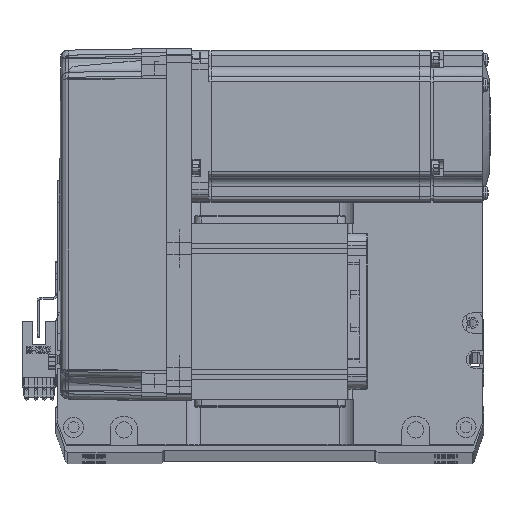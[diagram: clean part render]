
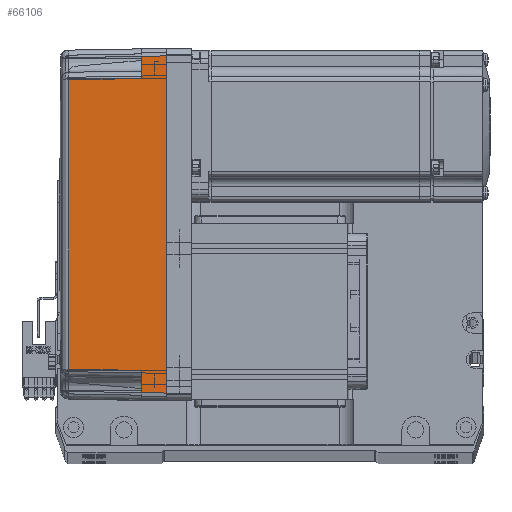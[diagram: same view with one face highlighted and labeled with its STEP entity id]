
A CAD part, top view. The second image highlights one B-rep face of the part: STEP entity #66106.
In plain terms, the highlighted planar face has unit normal (-0.018, 0, 1) as drawn and (0, 1, 0.017) by its records, which use the part's own axes.
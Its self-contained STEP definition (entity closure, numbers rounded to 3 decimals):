
#1569 = EDGE_CURVE ( 'NONE', #56500, #37367, #33239, .T. ) ;
#1895 = DIRECTION ( 'NONE',  ( 0.017, 0.017, -1. ) ) ;
#2693 = DIRECTION ( 'NONE',  ( 1., 0., 0. ) ) ;
#5232 = FACE_OUTER_BOUND ( 'NONE', #29724, .T. ) ;
#9205 = CARTESIAN_POINT ( 'NONE',  ( 57.495, 35.32, 38.985 ) ) ;
#10821 = LINE ( 'NONE', #37760, #66077 ) ;
#11936 = CARTESIAN_POINT ( 'NONE',  ( -67., 36., 0. ) ) ;
#12602 = VERTEX_POINT ( 'NONE', #13123 ) ;
#12692 = CARTESIAN_POINT ( 'NONE',  ( -19.165, 35.316, 39.181 ) ) ;
#13123 = CARTESIAN_POINT ( 'NONE',  ( -58., 35.825, 10. ) ) ;
#13802 = CARTESIAN_POINT ( 'NONE',  ( 66.826, 35.825, 10. ) ) ;
#14065 = ORIENTED_EDGE ( 'NONE', *, *, #34496, .F. ) ;
#20318 = ORIENTED_EDGE ( 'NONE', *, *, #68011, .T. ) ;
#22100 = CARTESIAN_POINT ( 'NONE',  ( 58., 35.825, 10. ) ) ;
#23323 = PLANE ( 'NONE',  #49813 ) ;
#23522 = CARTESIAN_POINT ( 'NONE',  ( 19.165, 35.316, 39.181 ) ) ;
#24738 = LINE ( 'NONE', #36723, #58950 ) ;
#25188 = LINE ( 'NONE', #50978, #33550 ) ;
#25245 = CARTESIAN_POINT ( 'NONE',  ( 67.001, 36.001, -0.052 ) ) ;
#25478 = CARTESIAN_POINT ( 'NONE',  ( -57.495, 35.32, 38.985 ) ) ;
#26058 = CARTESIAN_POINT ( 'NONE',  ( 0., 36., 0. ) ) ;
#27612 = LINE ( 'NONE', #44108, #56015 ) ;
#27870 = VERTEX_POINT ( 'NONE', #22100 ) ;
#28915 = CARTESIAN_POINT ( 'NONE',  ( 57.495, 35.32, 38.985 ) ) ;
#29724 = EDGE_LOOP ( 'NONE', ( #66646, #67515, #20318, #34567, #57984, #41136, #44772, #14065 ) ) ;
#32877 = LINE ( 'NONE', #25245, #33706 ) ;
#33239 = B_SPLINE_CURVE_WITH_KNOTS ( 'NONE', 3,
 ( #39190, #12692, #23522, #28915 ),
 .UNSPECIFIED., .F., .F.,
 ( 4, 4 ),
 ( 0., 1. ),
 .UNSPECIFIED. ) ;
#33550 = VECTOR ( 'NONE', #45401, 1000. ) ;
#33609 = DIRECTION ( 'NONE',  ( 0., 1., 0.017 ) ) ;
#33706 = VECTOR ( 'NONE', #51391, 1000. ) ;
#34496 = EDGE_CURVE ( 'NONE', #59304, #52705, #65193, .T. ) ;
#34567 = ORIENTED_EDGE ( 'NONE', *, *, #1569, .T. ) ;
#35227 = VERTEX_POINT ( 'NONE', #13802 ) ;
#36723 = CARTESIAN_POINT ( 'NONE',  ( 70., 35.825, 10. ) ) ;
#36931 = EDGE_CURVE ( 'NONE', #61407, #12602, #24738, .T. ) ;
#37367 = VERTEX_POINT ( 'NONE', #9205 ) ;
#37760 = CARTESIAN_POINT ( 'NONE',  ( -58., 35.825, 10. ) ) ;
#38291 = EDGE_CURVE ( 'NONE', #52705, #35227, #32877, .T. ) ;
#39190 = CARTESIAN_POINT ( 'NONE',  ( -57.495, 35.32, 38.985 ) ) ;
#41117 = LINE ( 'NONE', #61427, #65358 ) ;
#41136 = ORIENTED_EDGE ( 'NONE', *, *, #54697, .T. ) ;
#42269 = CARTESIAN_POINT ( 'NONE',  ( -66.826, 35.825, 10. ) ) ;
#42665 = DIRECTION ( 'NONE',  ( 0.017, -0.017, 1. ) ) ;
#44108 = CARTESIAN_POINT ( 'NONE',  ( 57.495, 35.32, 38.985 ) ) ;
#44772 = ORIENTED_EDGE ( 'NONE', *, *, #38291, .F. ) ;
#45401 = DIRECTION ( 'NONE',  ( 0.017, -0.017, 1. ) ) ;
#46299 = CARTESIAN_POINT ( 'NONE',  ( 67., 36., 0. ) ) ;
#48493 = EDGE_CURVE ( 'NONE', #59304, #61407, #25188, .T. ) ;
#49813 = AXIS2_PLACEMENT_3D ( 'NONE', #50401, #33609, #66063 ) ;
#50401 = CARTESIAN_POINT ( 'NONE',  ( 70., 36., 0. ) ) ;
#50978 = CARTESIAN_POINT ( 'NONE',  ( -67., 36., 0. ) ) ;
#51391 = DIRECTION ( 'NONE',  ( -0.017, -0.017, 1. ) ) ;
#52705 = VERTEX_POINT ( 'NONE', #46299 ) ;
#54697 = EDGE_CURVE ( 'NONE', #27870, #35227, #41117, .T. ) ;
#55168 = EDGE_CURVE ( 'NONE', #37367, #27870, #27612, .T. ) ;
#56015 = VECTOR ( 'NONE', #1895, 1000. ) ;
#56500 = VERTEX_POINT ( 'NONE', #25478 ) ;
#57984 = ORIENTED_EDGE ( 'NONE', *, *, #55168, .T. ) ;
#58501 = VECTOR ( 'NONE', #62547, 1000. ) ;
#58950 = VECTOR ( 'NONE', #69323, 1000. ) ;
#59304 = VERTEX_POINT ( 'NONE', #11936 ) ;
#61407 = VERTEX_POINT ( 'NONE', #42269 ) ;
#61427 = CARTESIAN_POINT ( 'NONE',  ( 70., 35.825, 10. ) ) ;
#62547 = DIRECTION ( 'NONE',  ( 1., 0., 0. ) ) ;
#65193 = LINE ( 'NONE', #26058, #58501 ) ;
#65358 = VECTOR ( 'NONE', #2693, 1000. ) ;
#66063 = DIRECTION ( 'NONE',  ( 0., -0.017, 1. ) ) ;
#66077 = VECTOR ( 'NONE', #42665, 1000. ) ;
#66106 = ADVANCED_FACE ( 'NONE', ( #5232 ), #23323, .T. ) ;
#66646 = ORIENTED_EDGE ( 'NONE', *, *, #48493, .T. ) ;
#67515 = ORIENTED_EDGE ( 'NONE', *, *, #36931, .T. ) ;
#68011 = EDGE_CURVE ( 'NONE', #12602, #56500, #10821, .T. ) ;
#69323 = DIRECTION ( 'NONE',  ( 1., 0., 0. ) ) ;
